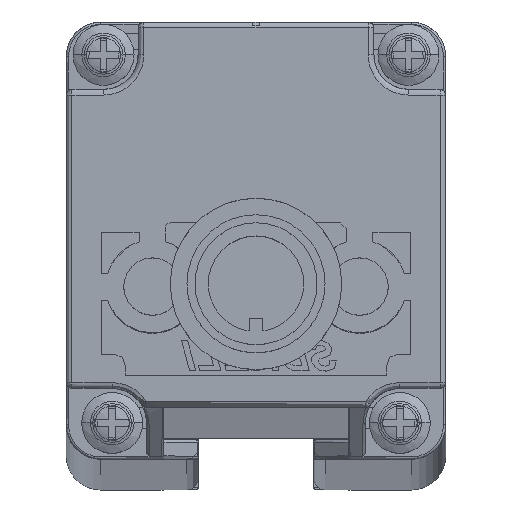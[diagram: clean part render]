
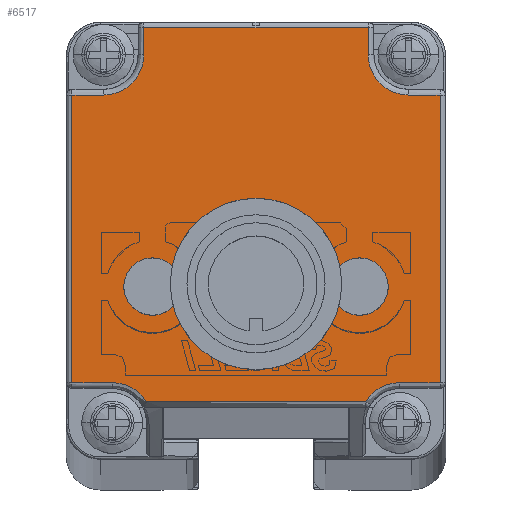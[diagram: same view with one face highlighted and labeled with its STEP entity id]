
A CAD part, top view. The second image highlights one B-rep face of the part: STEP entity #6517.
In plain terms, the highlighted planar face has unit normal (0, 0, 1).
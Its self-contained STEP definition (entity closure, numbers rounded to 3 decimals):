
#2629=CARTESIAN_POINT('',(0.65,-8.054,
1405.276));
#2630=DIRECTION('',(0.,0.,1.));
#2631=DIRECTION('',(1.,0.,0.));
#2632=AXIS2_PLACEMENT_3D('',#2629,#2630,#2631);
#2634=CARTESIAN_POINT('',(0.65,-8.054,
1405.276));
#2635=DIRECTION('',(0.,0.,1.));
#2636=DIRECTION('',(-1.,0.,0.));
#2637=AXIS2_PLACEMENT_3D('',#2634,#2635,#2636);
#2639=CARTESIAN_POINT('',(9.65,-8.055,1405.276));
#2640=DIRECTION('',(0.,0.,1.));
#2641=DIRECTION('',(1.,-0.007,0.));
#2642=AXIS2_PLACEMENT_3D('',#2639,#2640,#2641);
#2644=CARTESIAN_POINT('',(9.65,-8.055,1405.276));
#2645=DIRECTION('',(0.,0.,1.));
#2646=DIRECTION('',(-1.,0.007,0.));
#2647=AXIS2_PLACEMENT_3D('',#2644,#2645,#2646);
#2649=CARTESIAN_POINT('',(-8.35,-8.054,
1405.276));
#2650=DIRECTION('',(0.,0.,1.));
#2651=DIRECTION('',(1.,0.007,0.));
#2652=AXIS2_PLACEMENT_3D('',#2649,#2650,#2651);
#2654=CARTESIAN_POINT('',(-8.35,-8.054,
1405.276));
#2655=DIRECTION('',(0.,0.,1.));
#2656=DIRECTION('',(-1.,-0.007,0.));
#2657=AXIS2_PLACEMENT_3D('',#2654,#2655,#2656);
#2659=CARTESIAN_POINT('',(-11.85,-19.904,
1405.276));
#2660=DIRECTION('',(0.,0.,1.));
#2661=DIRECTION('',(0.849,0.528,0.));
#2662=AXIS2_PLACEMENT_3D('',#2659,#2660,#2661);
#2664=CARTESIAN_POINT('',(-12.6,12.094,1405.276));
#2665=DIRECTION('',(0.,0.,1.));
#2666=DIRECTION('',(0.,-1.,0.));
#2667=AXIS2_PLACEMENT_3D('',#2664,#2665,#2666);
#2669=CARTESIAN_POINT('',(13.9,12.094,1405.276));
#2670=DIRECTION('',(0.,0.,1.));
#2671=DIRECTION('',(-1.,0.,0.));
#2672=AXIS2_PLACEMENT_3D('',#2669,#2670,#2671);
#2674=CARTESIAN_POINT('',(13.15,-19.904,1405.276));
#2675=DIRECTION('',(0.,0.,1.));
#2676=DIRECTION('',(0.,1.,0.));
#2677=AXIS2_PLACEMENT_3D('',#2674,#2675,#2676);
#4206=DIRECTION('',(1.,0.,0.));
#4207=VECTOR('',#4206,19.056);
#4208=CARTESIAN_POINT('',(-8.878,-18.056,
1405.276));
#4209=LINE('',#4208,#4207);
#4779=DIRECTION('',(0.,1.,0.));
#4780=VECTOR('',#4779,2.35);
#4781=CARTESIAN_POINT('',(10.4,12.094,1405.276));
#4782=LINE('',#4781,#4780);
#4802=DIRECTION('',(-1.,0.,0.));
#4803=VECTOR('',#4802,19.5);
#4804=CARTESIAN_POINT('',(10.4,14.444,1405.276));
#4805=LINE('',#4804,#4803);
#4826=DIRECTION('',(0.,-1.,0.));
#4827=VECTOR('',#4826,2.35);
#4828=CARTESIAN_POINT('',(-9.1,14.444,1405.276));
#4829=LINE('',#4828,#4827);
#4853=DIRECTION('',(-1.,0.,0.));
#4854=VECTOR('',#4853,2.75);
#4855=CARTESIAN_POINT('',(-12.6,8.594,1405.276));
#4856=LINE('',#4855,#4854);
#4884=DIRECTION('',(0.,-1.,0.));
#4885=VECTOR('',#4884,24.998);
#4886=CARTESIAN_POINT('',(-15.35,8.594,1405.276));
#4887=LINE('',#4886,#4885);
#4908=DIRECTION('',(1.,0.,0.));
#4909=VECTOR('',#4908,3.5);
#4910=CARTESIAN_POINT('',(-15.35,-16.404,
1405.276));
#4911=LINE('',#4910,#4909);
#4972=DIRECTION('',(-1.,0.,0.));
#4973=VECTOR('',#4972,2.75);
#4974=CARTESIAN_POINT('',(16.65,8.594,1405.276));
#4975=LINE('',#4974,#4973);
#5205=DIRECTION('',(1.,0.,0.));
#5206=VECTOR('',#5205,3.5);
#5207=CARTESIAN_POINT('',(13.15,-16.404,1405.276));
#5208=LINE('',#5207,#5206);
#5236=DIRECTION('',(0.,1.,0.));
#5237=VECTOR('',#5236,24.998);
#5238=CARTESIAN_POINT('',(16.65,-16.404,1405.276));
#5239=LINE('',#5238,#5237);
#5643=CARTESIAN_POINT('',(12.15,-8.072,1405.276));
#5644=VERTEX_POINT('',#5643);
#5645=CARTESIAN_POINT('',(7.15,-8.039,1405.276));
#5646=VERTEX_POINT('',#5645);
#5647=CARTESIAN_POINT('',(-8.878,-18.056,
1405.276));
#5648=CARTESIAN_POINT('',(-11.85,-16.404,
1405.276));
#5649=VERTEX_POINT('',#5647);
#5650=VERTEX_POINT('',#5648);
#5651=CARTESIAN_POINT('',(-15.35,-16.404,
1405.276));
#5652=VERTEX_POINT('',#5651);
#5653=CARTESIAN_POINT('',(-15.35,8.594,1405.276));
#5654=VERTEX_POINT('',#5653);
#5655=CARTESIAN_POINT('',(-12.6,8.594,1405.276));
#5656=VERTEX_POINT('',#5655);
#5657=CARTESIAN_POINT('',(-9.1,12.094,1405.276));
#5658=VERTEX_POINT('',#5657);
#5659=CARTESIAN_POINT('',(-9.1,14.444,1405.276));
#5660=VERTEX_POINT('',#5659);
#5661=CARTESIAN_POINT('',(10.4,14.444,1405.276));
#5662=VERTEX_POINT('',#5661);
#5663=CARTESIAN_POINT('',(10.4,12.094,1405.276));
#5664=VERTEX_POINT('',#5663);
#5665=CARTESIAN_POINT('',(13.9,8.594,1405.276));
#5666=VERTEX_POINT('',#5665);
#5667=CARTESIAN_POINT('',(16.65,8.594,1405.276));
#5668=VERTEX_POINT('',#5667);
#5669=CARTESIAN_POINT('',(16.65,-16.404,1405.276));
#5670=VERTEX_POINT('',#5669);
#5671=CARTESIAN_POINT('',(13.15,-16.404,1405.276));
#5672=VERTEX_POINT('',#5671);
#5673=CARTESIAN_POINT('',(10.178,-18.056,1405.276));
#5674=VERTEX_POINT('',#5673);
#5675=CARTESIAN_POINT('',(-5.85,-8.037,
1405.276));
#5676=CARTESIAN_POINT('',(-10.85,-8.07,
1405.276));
#5677=VERTEX_POINT('',#5675);
#5678=VERTEX_POINT('',#5676);
#5679=CARTESIAN_POINT('',(3.65,-8.054,1405.276));
#5680=CARTESIAN_POINT('',(-2.35,-8.054,
1405.276));
#5681=VERTEX_POINT('',#5679);
#5682=VERTEX_POINT('',#5680);
#6466=CARTESIAN_POINT('',(0.65,0.944,
1405.276));
#6467=DIRECTION('',(0.,0.,1.));
#6468=DIRECTION('',(1.,0.,0.));
#6469=AXIS2_PLACEMENT_3D('',#6466,#6467,#6468);
#6470=PLANE('',#6469);
#6472=ORIENTED_EDGE('',*,*,#6471,.T.);
#6474=ORIENTED_EDGE('',*,*,#6473,.F.);
#6476=ORIENTED_EDGE('',*,*,#6475,.F.);
#6478=ORIENTED_EDGE('',*,*,#6477,.F.);
#6480=ORIENTED_EDGE('',*,*,#6479,.T.);
#6482=ORIENTED_EDGE('',*,*,#6481,.F.);
#6484=ORIENTED_EDGE('',*,*,#6483,.F.);
#6486=ORIENTED_EDGE('',*,*,#6485,.F.);
#6488=ORIENTED_EDGE('',*,*,#6487,.T.);
#6490=ORIENTED_EDGE('',*,*,#6489,.F.);
#6492=ORIENTED_EDGE('',*,*,#6491,.F.);
#6494=ORIENTED_EDGE('',*,*,#6493,.F.);
#6496=ORIENTED_EDGE('',*,*,#6495,.T.);
#6498=ORIENTED_EDGE('',*,*,#6497,.F.);
#6499=EDGE_LOOP('',(#6472,#6474,#6476,#6478,#6480,#6482,#6484,#6486,#6488,#6490,
#6492,#6494,#6496,#6498));
#6500=FACE_OUTER_BOUND('',#6499,.F.);
#6501=ORIENTED_EDGE('',*,*,#6453,.T.);
#6502=ORIENTED_EDGE('',*,*,#6414,.T.);
#6503=EDGE_LOOP('',(#6501,#6502));
#6504=FACE_BOUND('',#6503,.F.);
#6506=ORIENTED_EDGE('',*,*,#6505,.T.);
#6508=ORIENTED_EDGE('',*,*,#6507,.T.);
#6509=EDGE_LOOP('',(#6506,#6508));
#6510=FACE_BOUND('',#6509,.F.);
#6512=ORIENTED_EDGE('',*,*,#6511,.T.);
#6514=ORIENTED_EDGE('',*,*,#6513,.T.);
#6515=EDGE_LOOP('',(#6512,#6514));
#6516=FACE_BOUND('',#6515,.F.);
#2633=CIRCLE('',#2632,3.);
#2638=CIRCLE('',#2637,3.);
#2643=CIRCLE('',#2642,2.5);
#2648=CIRCLE('',#2647,2.5);
#2653=CIRCLE('',#2652,2.5);
#2658=CIRCLE('',#2657,2.5);
#2663=CIRCLE('',#2662,3.5);
#2668=CIRCLE('',#2667,3.5);
#2673=CIRCLE('',#2672,3.5);
#2678=CIRCLE('',#2677,3.5);
#6414=EDGE_CURVE('',#5646,#5644,#2648,.T.);
#6453=EDGE_CURVE('',#5644,#5646,#2643,.T.);
#6471=EDGE_CURVE('',#5649,#5650,#2663,.T.);
#6473=EDGE_CURVE('',#5652,#5650,#4911,.T.);
#6475=EDGE_CURVE('',#5654,#5652,#4887,.T.);
#6477=EDGE_CURVE('',#5656,#5654,#4856,.T.);
#6479=EDGE_CURVE('',#5656,#5658,#2668,.T.);
#6481=EDGE_CURVE('',#5660,#5658,#4829,.T.);
#6483=EDGE_CURVE('',#5662,#5660,#4805,.T.);
#6485=EDGE_CURVE('',#5664,#5662,#4782,.T.);
#6487=EDGE_CURVE('',#5664,#5666,#2673,.T.);
#6489=EDGE_CURVE('',#5668,#5666,#4975,.T.);
#6491=EDGE_CURVE('',#5670,#5668,#5239,.T.);
#6493=EDGE_CURVE('',#5672,#5670,#5208,.T.);
#6495=EDGE_CURVE('',#5672,#5674,#2678,.T.);
#6497=EDGE_CURVE('',#5649,#5674,#4209,.T.);
#6505=EDGE_CURVE('',#5677,#5678,#2653,.T.);
#6507=EDGE_CURVE('',#5678,#5677,#2658,.T.);
#6511=EDGE_CURVE('',#5681,#5682,#2633,.T.);
#6513=EDGE_CURVE('',#5682,#5681,#2638,.T.);
#6517=ADVANCED_FACE('',(#6500,#6504,#6510,#6516),#6470,.T.);
